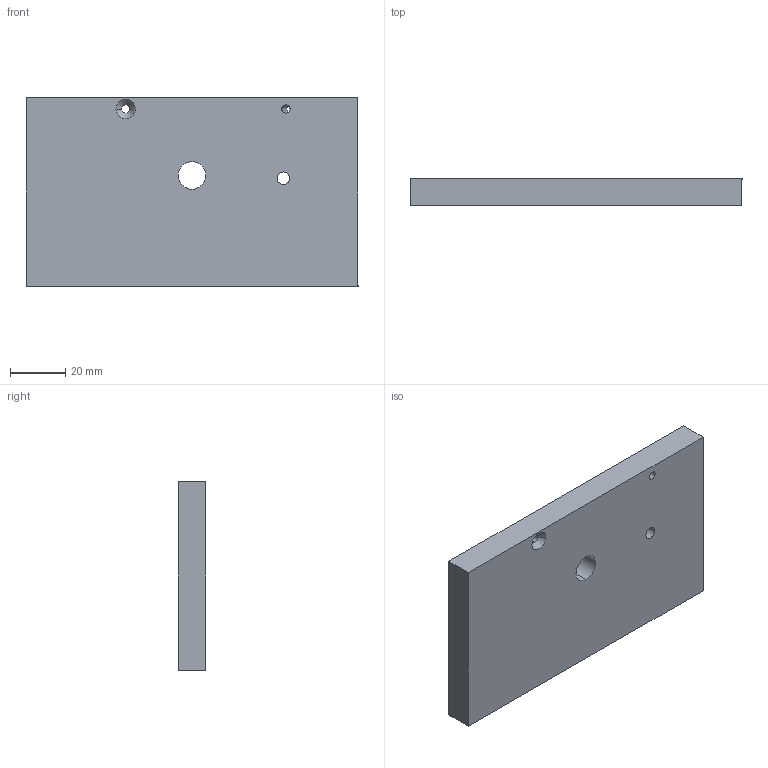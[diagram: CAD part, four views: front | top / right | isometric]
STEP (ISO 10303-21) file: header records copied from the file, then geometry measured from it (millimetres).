
FILE_DESCRIPTION(('STEP AP214'),'1');
FILE_NAME('tmp0.step','2025-04-04T11:17:20',(' '),(' '),'Spatial InterOp 3D',' ',' ');
FILE_SCHEMA(('AUTOMOTIVE_DESIGN { 1 0 10303 214 1 1 1 1 }'));
Length unit declared in the file: millimetre
Products named in the file (1): 1
Bounding box: 120 x 10 x 68 mm (x, y, z)
Volume: 80316.1 mm3; surface area: 20459 mm2
Topology: 1 solids, 1 shells, 18 faces, 49 edges, 33 vertices
Faces by surface type: cylinder 8, plane 6, cone 4
Entity records: 627 total; most frequent: DIRECTION 112, CARTESIAN_POINT 101, ORIENTED_EDGE 98, EDGE_CURVE 49, AXIS2_PLACEMENT_3D 44, VERTEX_POINT 33, EDGE_LOOP 26, LINE 24
